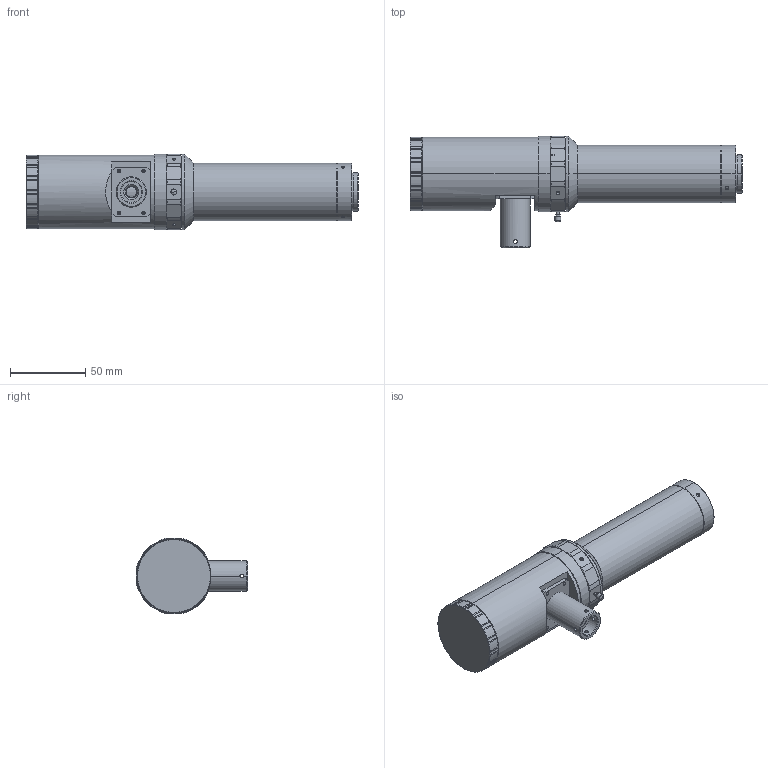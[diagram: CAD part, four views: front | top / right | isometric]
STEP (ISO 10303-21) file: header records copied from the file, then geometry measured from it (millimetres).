
FILE_DESCRIPTION (( 'STEP AP203' ), '1' );
FILE_NAME ('DTCA121-6.6C-110-G.STEP', '2025-01-20T02:15:36', ( '1625510860@qq.com' ), ( '' ), 'SwSTEP 2.0', 'SolidWorks 2017', '' );
FILE_SCHEMA (( 'CONFIG_CONTROL_DESIGN' ));
Length unit declared in the file: millimetre
Products named in the file (1): DTCA121-6.6C-110-G
Bounding box: 220.14 x 73.9 x 50 mm (x, y, z)
Volume: 323985.3 mm3; surface area: 46379.4 mm2
Topology: 1 solids, 3 shells, 379 faces, 938 edges, 576 vertices
Faces by surface type: cylinder 194, cone 103, plane 76, torus 4, sphere 2
Entity records: 12362 total; most frequent: CARTESIAN_POINT 3487, ORIENTED_EDGE 1860, DIRECTION 1814, EDGE_CURVE 930, AXIS2_PLACEMENT_3D 739, VERTEX_POINT 576, EDGE_LOOP 424, ADVANCED_FACE 379
